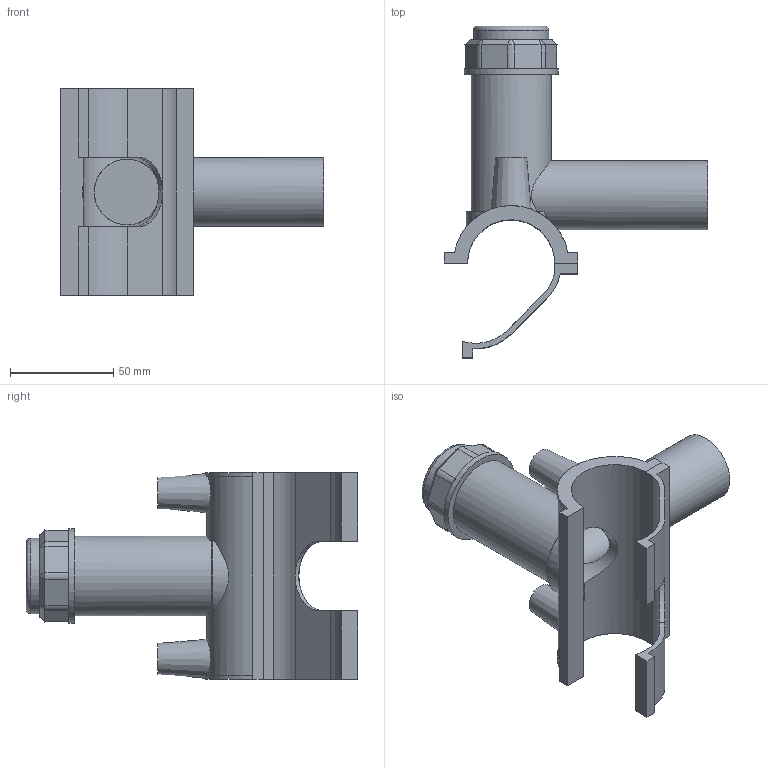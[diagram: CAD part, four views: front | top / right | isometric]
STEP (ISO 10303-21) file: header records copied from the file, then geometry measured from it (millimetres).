
FILE_DESCRIPTION(/* description */ ('PLASSON TAPPING SADDLE 1 1/4''''IPS x 1''''IPS'),/* implementation_level */ '2;1');
FILE_NAME(/* name */ 'C:\Dropbox\KIMPROJECTS-Inventor 2019\99-16-3568-Processing Inch\ASTM ElectroFusion 2021\5963B\5963BB03013010.ipt.stp',/* time_stamp */ '2021-08-30T09:54:49+03:00',/* author */ ('KIM'),/* organization */ (''),/* preprocessor_version */ 'ST-DEVELOPER v17.2',/* originating_system */ 'Autodesk Inventor 2019',/* authorisation */ '');
FILE_SCHEMA (('AUTOMOTIVE_DESIGN { 1 0 10303 214 3 1 1 }'));
Length unit declared in the file: millimetre
Products named in the file (1): 5963BB03013010
Bounding box: 127.25 x 160.41 x 100.08 mm (x, y, z)
Volume: 156602.6 mm3; surface area: 70275.6 mm2
Topology: 2 solids, 2 shells, 111 faces, 288 edges, 190 vertices
Faces by surface type: plane 63, cylinder 34, cone 13, torus 1
Full cylindrical faces by diameter (mm): 4 x2, 10 x2, 26.64 x1, 31.828 x1, 33.3 x1, 36.374 x1, 38.648 x1, 45.468 x1
Entity records: 3751 total; most frequent: CARTESIAN_POINT 967, ORIENTED_EDGE 576, DIRECTION 569, EDGE_CURVE 288, AXIS2_PLACEMENT_3D 206, VERTEX_POINT 190, LINE 157, VECTOR 157
